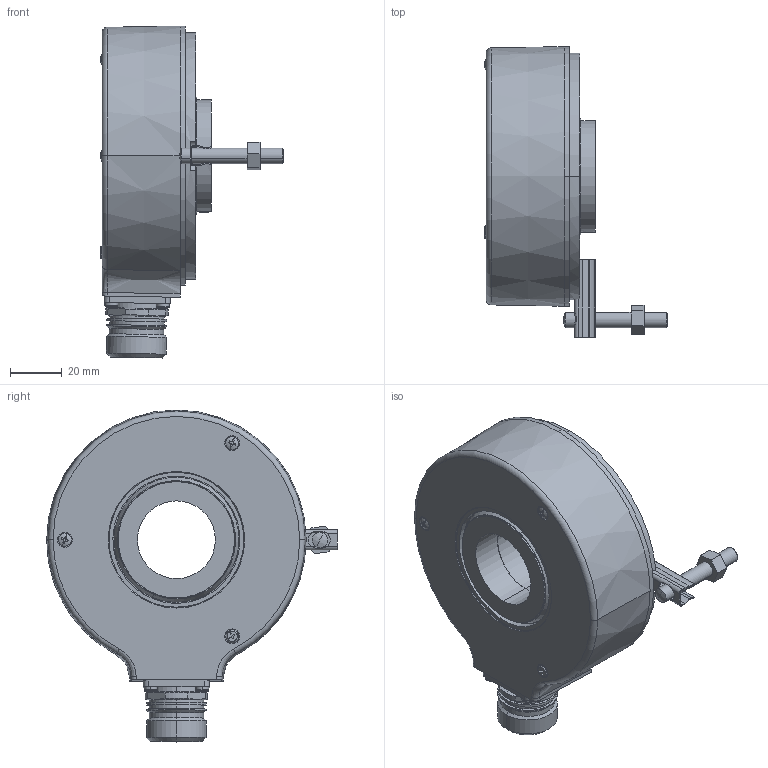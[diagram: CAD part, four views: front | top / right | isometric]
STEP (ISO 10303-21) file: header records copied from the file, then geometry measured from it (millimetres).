
FILE_DESCRIPTION (( 'STEP AP214' ), '1' );
FILE_NAME ('A020.3AX2.XXXX.STEP', '2009-10-29T07:23:47', ( 'admin' ), ( 'Fritz Kübler GmbH' ), 'SwSTEP 2.0', 'SolidWorks 2009', '' );
FILE_SCHEMA (( 'AUTOMOTIVE_DESIGN' ));
Length unit declared in the file: millimetre
Products named in the file (1): A020.3AX2.XXXX
Bounding box: 70.4 x 112 x 127.91 mm (x, y, z)
Volume: 171493.1 mm3; surface area: 103528.4 mm2
Topology: 37 solids, 39 shells, 1285 faces, 3216 edges, 1974 vertices
Faces by surface type: cylinder 490, plane 349, cone 200, sphere 134, torus 100, bspline 12
Entity records: 55742 total; most frequent: CARTESIAN_POINT 11256, DIRECTION 6731, ORIENTED_EDGE 5820, EDGE_CURVE 2910, AXIS2_PLACEMENT_3D 2823, VERTEX_POINT 1830, EDGE_LOOP 1584, CIRCLE 1549
